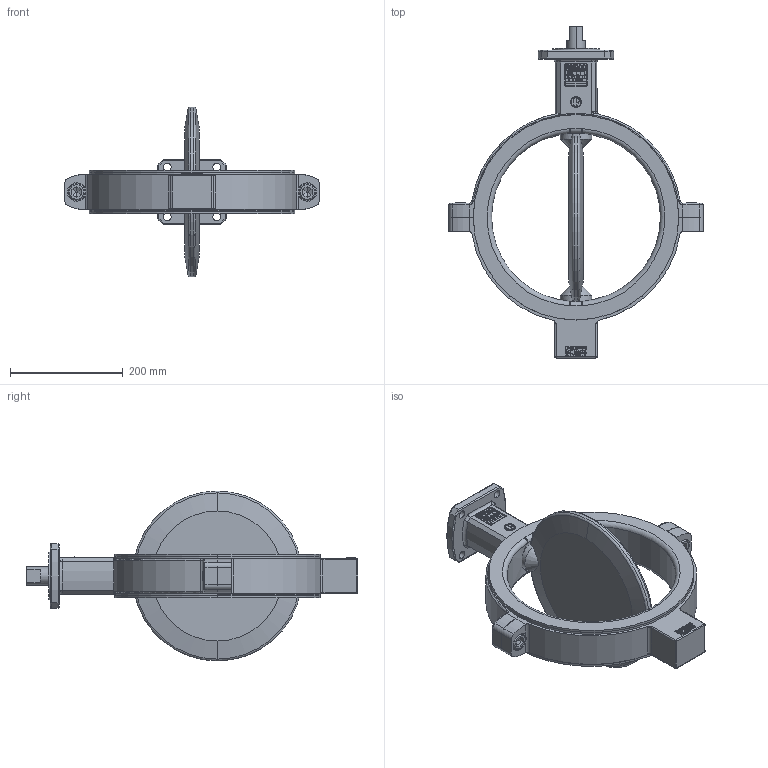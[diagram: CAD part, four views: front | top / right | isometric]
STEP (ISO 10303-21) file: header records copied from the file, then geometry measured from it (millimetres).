
FILE_DESCRIPTION((''),'2;1');
FILE_NAME('9520-00-5131_A_ASM','2014-05-02T',('SParmar1'),(''),'PRO/ENGINEER BY PARAMETRIC TECHNOLOGY CORPORATION, 2011040','PRO/ENGINEER BY PARAMETRIC TECHNOLOGY CORPORATION, 2011040','');
FILE_SCHEMA(('CONFIG_CONTROL_DESIGN'));
Products named in the file (5): 9527-18-7039; 9527-28-2101; 4111-51-1368; 4188_11_1060; 9520-00-5131_A_ASM
Assembly tree (5 placements, depth 2):
  9520-00-5131_A_ASM
    9527-18-7039
    9527-28-2101
    4111-51-1368  x2
    4188_11_1060
Bounding box: 452 x 590 x 302 mm (x, y, z)
Volume: 5308461.7 mm3; surface area: 682159.6 mm2
Topology: 5 solids, 5 shells, 3097 faces, 8608 edges, 5686 vertices
Faces by surface type: plane 2829, cylinder 151, bspline 42, torus 33, cone 26, sphere 8, extrusion 8
Entity records: 98980 total; most frequent: CARTESIAN_POINT 20137, ORIENTED_EDGE 17120, DIRECTION 14787, EDGE_CURVE 8560, VECTOR 8009, LINE 8001, VERTEX_POINT 5661, AXIS2_PLACEMENT_3D 3389
